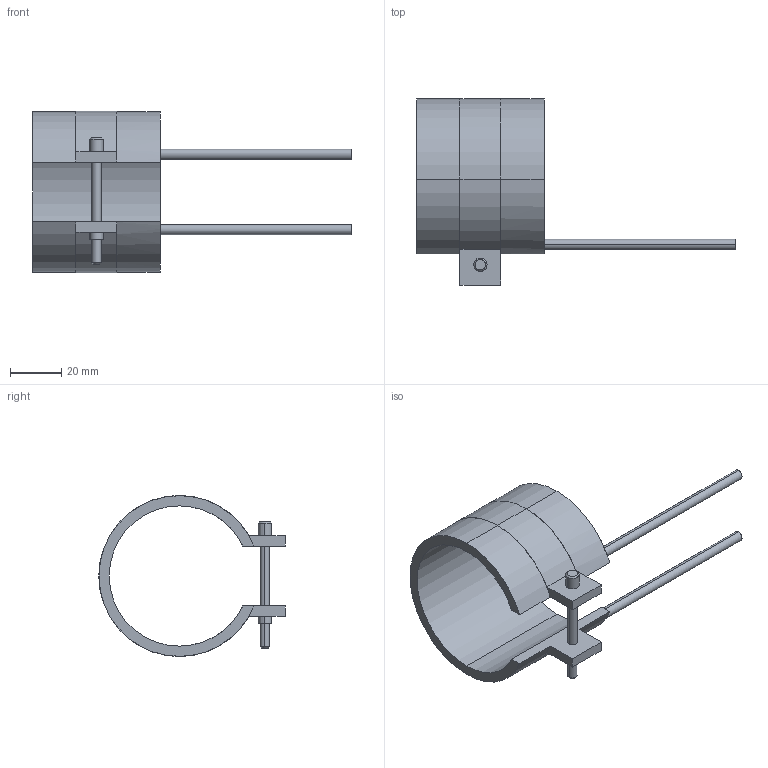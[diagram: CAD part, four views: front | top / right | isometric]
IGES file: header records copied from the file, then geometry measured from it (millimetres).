
Start section: START RECORD GO HERE.
Global section: file name: 14055050.igs; native system: DASSAULT SYSTEMES CATIA V5 R20 - www.3ds.com; preprocessor: CATIA Version 5 Release 20 ; author: Utente; organization: NB04-ASUS; date: 20210401.113342; units: millimetre
Bounding box: 125 x 73.1 x 63.2 mm (x, y, z)
Surface area: 21299.7 mm2 (no closed solid volume)
Topology: 0 solids, 0 shells, 45 faces, 232 edges, 232 vertices
Faces by surface type: revolution 28, plane 17
